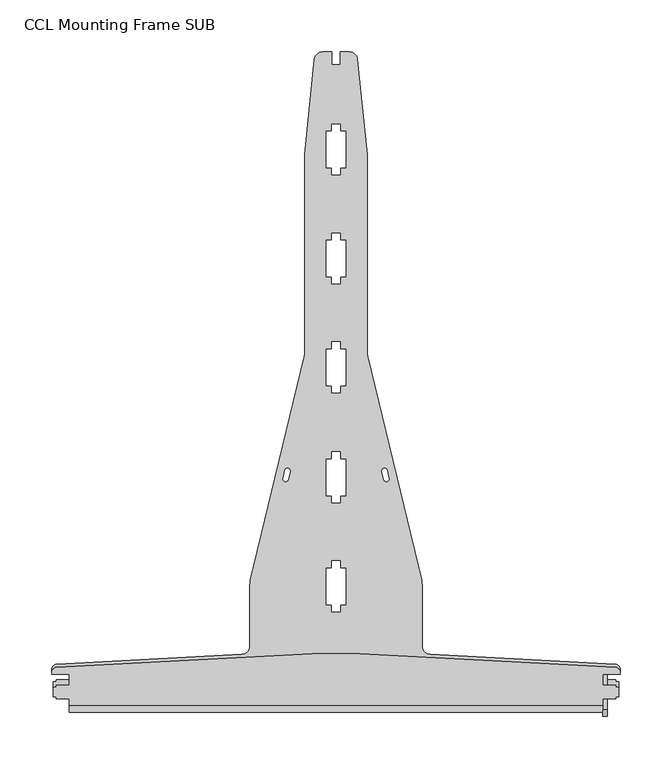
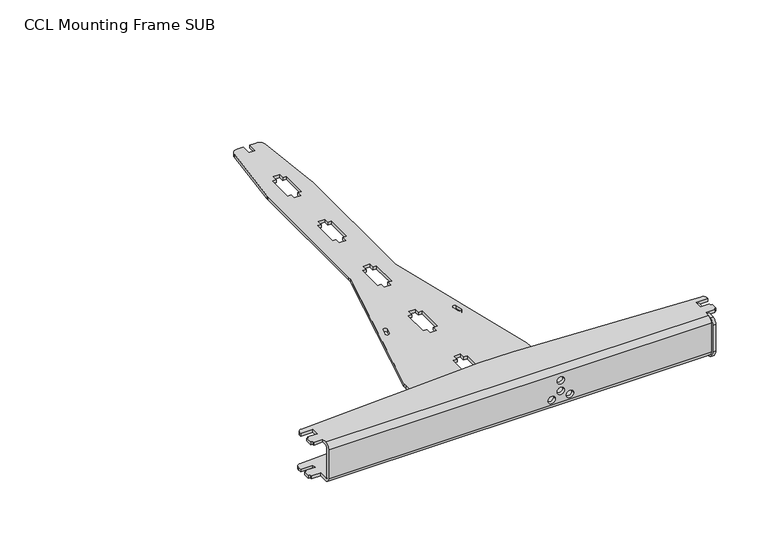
"""IFC4 building model written with IfcOpenShell, lengths in millimetres: proxy geometry, d&b CL-Series CCL Mounting Frame SUB : CCL Mounting Frame SUB."""

from ifc_helpers import new_model, si_unit, point, frame, frame_2d, origin, place, context, project, spatial, polyline, circle_curve, trimmed, segment, composite_curve, outline, extrude, source, transform, mapped, element, save
from ifc_brep_helpers import plane_surface, cylinder_surface, revolved_surface, advanced_brep


def ccl_mounting_frame_sub_df6a48cd(model_context):
    return source(origin(), model_context, "Body", "SolidModel", [
        advanced_brep(
        [(257.25, 10.5, 57.5), (257.25, 3.5, 50.5), (257.25, 3.5, 9.5), (257.25, 10.5, 2.5), (257.25, 22.0, 2.5), (257.25, 22.0, 6.5), (257.25, 10.5, 6.5), (257.25, 7.5, 9.5), (257.25, 7.5, 50.5), (257.25, 10.5, 53.5), (257.25, 16.75, 53.5), (257.25, 16.75, 57.5), (257.25, 35.0, 2.5), (257.25, 40.1, 2.5), (257.25, 40.1, 6.5), (257.25, 35.0, 6.5), (257.25, 29.75, 53.5), (257.25, 40.1, 53.5), (257.25, 40.1, 57.5), (257.25, 29.75, 57.5), (-257.25, 10.5, 53.5), (-257.25, 7.5, 50.5), (-257.25, 7.5, 9.5), (-257.25, 10.5, 6.5), (-257.25, 22.0, 6.5), (-257.25, 22.0, 2.5), (-257.25, 10.5, 2.5), (-257.25, 3.5, 9.5), (-257.25, 3.5, 50.5), (-257.25, 10.5, 57.5), (-257.25, 16.75, 57.5), (-257.25, 16.75, 53.5), (-257.25, 35.0, 6.5), (-257.25, 40.1, 6.5), (-257.25, 40.1, 2.5), (-257.25, 35.0, 2.5), (-257.25, 29.75, 57.5), (-257.25, 40.1, 57.5), (-257.25, 40.1, 53.5), (-257.25, 29.75, 53.5), (-269.75, 16.75, 53.5), (-269.75, 18.75, 53.5), (-272.25, 18.75, 53.5), (-272.25, 27.75, 53.5), (-269.75, 27.75, 53.5), (-269.75, 29.75, 53.5), (-273.75, 40.1, 53.5), (-273.75, 42.1, 53.5), (-269.0116798, 47.0931477, 53.5), (-22.7342663, 60.0, 53.5), (22.7342663, 60.0, 53.5), (269.0116798, 47.0931477, 53.5), (273.75, 42.1, 53.5), (273.75, 40.1, 53.5), (269.75, 29.75, 53.5), (269.75, 27.75, 53.5), (272.25, 27.75, 53.5), (272.25, 18.75, 53.5), (269.75, 18.75, 53.5), (269.75, 16.75, 53.5), (-22.7342663, 60.0, 57.5), (22.7342663, 60.0, 57.5), (269.75, 16.75, 57.5), (269.75, 18.75, 57.5), (272.25, 18.75, 57.5), (272.25, 27.75, 57.5), (269.75, 27.75, 57.5), (269.75, 29.75, 57.5), (273.75, 40.1, 57.5), (273.75, 42.1, 57.5), (269.0116798, 47.0931477, 57.5), (-269.0116798, 47.0931477, 57.5), (-273.75, 42.1, 57.5), (-273.75, 40.1, 57.5), (-269.75, 29.75, 57.5), (-269.75, 27.75, 57.5), (-272.25, 27.75, 57.5), (-272.25, 18.75, 57.5), (-269.75, 18.75, 57.5), (-269.75, 16.75, 57.5), (47.7127193, 3.5, 16.3525166), (37.7127193, 3.5, 16.3525166), (72.2872807, 3.5, 16.3525166), (62.2872807, 3.5, 16.3525166), (60.0, 3.5, 24.9561632), (50.0, 3.5, 24.9561632), (60.0, 3.5, 39.9561632), (50.0, 3.5, 39.9561632), (-269.75, 22.0, 2.5), (-269.75, 24.75, 2.5), (-272.25, 24.75, 2.5), (-272.25, 33.25, 2.5), (-269.75, 33.25, 2.5), (-269.75, 35.0, 2.5), (-273.75, 40.1, 2.5), (-273.75, 45.104117, 2.5), (-269.0116798, 50.0972647, 2.5), (-90.5813124, 59.448404, 2.5), (-83.0, 67.4374403, 2.5), (-83.0, 126.1248843, 2.5), (-82.4437276, 130.8090551, 2.5), (-30.5562724, 346.1909449, 2.5), (-30.0, 350.8751157, 2.5), (-30.0, 539.0024876, 2.5), (-29.9007438, 540.992562, 2.5), (-20.720397, 632.7960298, 2.5), (-12.7600995, 640.0, 2.5), (-4.25, 640.0, 2.5), (-4.25, 627.5, 2.5), (4.25, 627.5, 2.5), (4.25, 640.0, 2.5), (12.7600995, 640.0, 2.5), (20.720397, 632.7960298, 2.5), (29.9007438, 540.992562, 2.5), (30.0, 539.0024876, 2.5), (30.0, 350.8751157, 2.5), (30.5562724, 346.1909449, 2.5), (82.4437276, 130.8090551, 2.5), (83.0, 126.1248843, 2.5), (83.0, 67.4374403, 2.5), (90.5813124, 59.448404, 2.5), (269.0116798, 50.0972647, 2.5), (273.75, 45.104117, 2.5), (273.75, 40.1, 2.5), (269.75, 35.0, 2.5), (269.75, 33.25, 2.5), (272.25, 33.25, 2.5), (272.25, 24.75, 2.5), (269.75, 24.75, 2.5), (269.75, 22.0, 2.5), (-9.25, 563.5, 2.5), (-9.25, 528.5, 2.5), (-4.25, 528.5, 2.5), (-4.25, 521.5, 2.5), (4.25, 521.5, 2.5), (4.25, 528.5, 2.5), (9.25, 528.5, 2.5), (9.25, 563.5, 2.5), (4.25, 563.5, 2.5), (4.25, 570.5, 2.5), (-4.25, 570.5, 2.5), (-4.25, 563.5, 2.5), (-9.25, 458.5, 2.5), (-9.25, 423.5, 2.5), (-4.25, 423.5, 2.5), (-4.25, 416.5, 2.5), (4.25, 416.5, 2.5), (4.25, 423.5, 2.5), (9.25, 423.5, 2.5), (9.25, 458.5, 2.5), (4.25, 458.5, 2.5), (4.25, 465.5, 2.5), (-4.25, 465.5, 2.5), (-4.25, 458.5, 2.5), (-9.25, 353.5, 2.5), (-9.25, 318.5, 2.5), (-4.25, 318.5, 2.5), (-4.25, 311.5, 2.5), (4.25, 311.5, 2.5), (4.25, 318.5, 2.5), (9.25, 318.5, 2.5), (9.25, 353.5, 2.5), (4.25, 353.5, 2.5), (4.25, 360.5, 2.5), (-4.25, 360.5, 2.5), (-4.25, 353.5, 2.5), (-9.25, 247.5, 2.5), (-9.25, 212.5, 2.5), (-4.25, 212.5, 2.5), (-4.25, 205.5, 2.5), (4.25, 205.5, 2.5), (4.25, 212.5, 2.5), (9.25, 212.5, 2.5), (9.25, 247.5, 2.5), (4.25, 247.5, 2.5), (4.25, 254.5, 2.5), (-4.25, 254.5, 2.5), (-4.25, 247.5, 2.5), (-9.25, 142.5, 2.5), (-9.25, 107.5, 2.5), (-4.25, 107.5, 2.5), (-4.25, 100.5, 2.5), (4.25, 100.5, 2.5), (4.25, 107.5, 2.5), (9.25, 107.5, 2.5), (9.25, 142.5, 2.5), (4.25, 142.5, 2.5), (4.25, 149.5, 2.5), (-4.25, 149.5, 2.5), (-4.25, 142.5, 2.5), (-49.1797951, 236.8630124, 2.5), (-51.0534634, 229.0855213, 2.5), (-46.1925315, 227.9144787, 2.5), (-44.3188632, 235.6919697, 2.5), (49.1797951, 236.8630124, 2.5), (44.3188632, 235.6919697, 2.5), (46.1925315, 227.9144787, 2.5), (51.0534634, 229.0855213, 2.5), (269.75, 22.0, 6.5), (269.75, 24.75, 6.5), (272.25, 24.75, 6.5), (272.25, 33.25, 6.5), (269.75, 33.25, 6.5), (269.75, 35.0, 6.5), (273.75, 40.1, 6.5), (273.75, 45.104117, 6.5), (269.0116798, 50.0972647, 6.5), (90.5813124, 59.448404, 6.5), (83.0, 67.4374403, 6.5), (83.0, 126.1248843, 6.5), (82.4437276, 130.8090551, 6.5), (30.5562724, 346.1909449, 6.5), (30.0, 350.8751157, 6.5), (30.0, 539.0024876, 6.5), (29.9007438, 540.992562, 6.5), (20.720397, 632.7960298, 6.5), (12.7600995, 640.0, 6.5), (4.25, 640.0, 6.5), (4.25, 627.5, 6.5), (-4.25, 627.5, 6.5), (-4.25, 640.0, 6.5), (-12.7600995, 640.0, 6.5), (-20.720397, 632.7960298, 6.5), (-29.9007438, 540.992562, 6.5), (-30.0, 539.0024876, 6.5), (-30.0, 350.8751157, 6.5), (-30.5562724, 346.1909449, 6.5), (-82.4437276, 130.8090551, 6.5), (-83.0, 126.1248843, 6.5), (-83.0, 67.4374403, 6.5), (-90.5813124, 59.448404, 6.5), (-269.0116798, 50.0972647, 6.5), (-273.75, 45.104117, 6.5), (-273.75, 40.1, 6.5), (-269.75, 35.0, 6.5), (-269.75, 33.25, 6.5), (-272.25, 33.25, 6.5), (-272.25, 24.75, 6.5), (-269.75, 24.75, 6.5), (-269.75, 22.0, 6.5), (-9.25, 563.5, 6.5), (-4.25, 563.5, 6.5), (-4.25, 570.5, 6.5), (4.25, 570.5, 6.5), (4.25, 563.5, 6.5), (9.25, 563.5, 6.5), (9.25, 528.5, 6.5), (4.25, 528.5, 6.5), (4.25, 521.5, 6.5), (-4.25, 521.5, 6.5), (-4.25, 528.5, 6.5), (-9.25, 528.5, 6.5), (-9.25, 458.5, 6.5), (-4.25, 458.5, 6.5), (-4.25, 465.5, 6.5), (4.25, 465.5, 6.5), (4.25, 458.5, 6.5), (9.25, 458.5, 6.5), (9.25, 423.5, 6.5), (4.25, 423.5, 6.5), (4.25, 416.5, 6.5), (-4.25, 416.5, 6.5), (-4.25, 423.5, 6.5), (-9.25, 423.5, 6.5), (-9.25, 353.5, 6.5), (-4.25, 353.5, 6.5), (-4.25, 360.5, 6.5), (4.25, 360.5, 6.5), (4.25, 353.5, 6.5), (9.25, 353.5, 6.5), (9.25, 318.5, 6.5), (4.25, 318.5, 6.5), (4.25, 311.5, 6.5), (-4.25, 311.5, 6.5), (-4.25, 318.5, 6.5), (-9.25, 318.5, 6.5), (-9.25, 247.5, 6.5), (-4.25, 247.5, 6.5), (-4.25, 254.5, 6.5), (4.25, 254.5, 6.5), (4.25, 247.5, 6.5), (9.25, 247.5, 6.5), (9.25, 212.5, 6.5), (4.25, 212.5, 6.5), (4.25, 205.5, 6.5), (-4.25, 205.5, 6.5), (-4.25, 212.5, 6.5), (-9.25, 212.5, 6.5), (-9.25, 142.5, 6.5), (-4.25, 142.5, 6.5), (-4.25, 149.5, 6.5), (4.25, 149.5, 6.5), (4.25, 142.5, 6.5), (9.25, 142.5, 6.5), (9.25, 107.5, 6.5), (4.25, 107.5, 6.5), (4.25, 100.5, 6.5), (-4.25, 100.5, 6.5), (-4.25, 107.5, 6.5), (-9.25, 107.5, 6.5), (-49.1797951, 236.8630124, 6.5), (-44.3188632, 235.6919697, 6.5), (-46.1925315, 227.9144787, 6.5), (-51.0534634, 229.0855213, 6.5), (49.1797951, 236.8630124, 6.5), (51.0534634, 229.0855213, 6.5), (46.1925315, 227.9144787, 6.5), (44.3188632, 235.6919697, 6.5), (37.7127193, 7.5, 16.3525166), (47.7127193, 7.5, 16.3525166), (62.2872807, 7.5, 16.3525166), (72.2872807, 7.5, 16.3525166), (50.0, 7.5, 24.9561632), (60.0, 7.5, 24.9561632), (50.0, 7.5, 39.9561632), (60.0, 7.5, 39.9561632)],
        [
            (0, 1, circle_curve(frame((257.25, 10.5, 50.5), z_axis=(1.0, 0.0, 0.0), x_axis=(0.0, 1.0, 0.0)), 7.0)),
            (1, 2),
            (2, 3, circle_curve(frame((257.25, 10.5, 9.5), z_axis=(1.0, 0.0, 0.0), x_axis=(0.0, 1.0, 0.0)), 7.0)),
            (3, 4),
            (4, 5),
            (5, 6),
            (6, 7, circle_curve(frame((257.25, 10.5, 9.5), z_axis=(-1.0, 0.0, 0.0), x_axis=(0.0, 1.0, 0.0)), 3.0)),
            (7, 8),
            (8, 9, circle_curve(frame((257.25, 10.5, 50.5), z_axis=(-1.0, 0.0, 0.0), x_axis=(0.0, 1.0, 0.0)), 3.0)),
            (9, 10),
            (10, 11),
            (11, 0),
            (12, 13),
            (13, 14),
            (14, 15),
            (15, 12),
            (16, 17),
            (17, 18),
            (18, 19),
            (19, 16),
            (20, 21, circle_curve(frame((-257.25, 10.5, 50.5), z_axis=(1.0, 0.0, 0.0), x_axis=(0.0, 1.0, 0.0)), 3.0)),
            (21, 22),
            (22, 23, circle_curve(frame((-257.25, 10.5, 9.5), z_axis=(1.0, 0.0, 0.0), x_axis=(0.0, 1.0, 0.0)), 3.0)),
            (23, 24),
            (24, 25),
            (25, 26),
            (26, 27, circle_curve(frame((-257.25, 10.5, 9.5), z_axis=(-1.0, 0.0, 0.0), x_axis=(0.0, 1.0, 0.0)), 7.0)),
            (27, 28),
            (28, 29, circle_curve(frame((-257.25, 10.5, 50.5), z_axis=(-1.0, 0.0, 0.0), x_axis=(0.0, 1.0, 0.0)), 7.0)),
            (29, 30),
            (30, 31),
            (31, 20),
            (32, 33),
            (33, 34),
            (34, 35),
            (35, 32),
            (36, 37),
            (37, 38),
            (38, 39),
            (39, 36),
            (9, 20),
            (31, 40),
            (40, 41),
            (41, 42),
            (42, 43),
            (43, 44),
            (44, 45),
            (45, 39),
            (38, 46),
            (46, 47),
            (47, 48, circle_curve(frame((-268.75, 42.1, 53.5), z_axis=(0.0, 0.0, -1.0), x_axis=(1.0, 0.0, 0.0)), 5.0)),
            (48, 49),
            (49, 50),
            (50, 51),
            (51, 52, circle_curve(frame((268.75, 42.1, 53.5), z_axis=(0.0, 0.0, -1.0), x_axis=(1.0, 0.0, 0.0)), 5.0)),
            (52, 53),
            (53, 17),
            (16, 54),
            (54, 55),
            (55, 56),
            (56, 57),
            (57, 58),
            (58, 59),
            (59, 10),
            (49, 60),
            (60, 61),
            (61, 50),
            (29, 0),
            (11, 62),
            (62, 63),
            (63, 64),
            (64, 65),
            (65, 66),
            (66, 67),
            (67, 19),
            (18, 68),
            (68, 69),
            (69, 70, circle_curve(frame((268.75, 42.1, 57.5), z_axis=(0.0, 0.0, 1.0), x_axis=(1.0, 0.0, 0.0)), 5.0)),
            (70, 61),
            (60, 71),
            (71, 72, circle_curve(frame((-268.75, 42.1, 57.5), z_axis=(0.0, 0.0, 1.0), x_axis=(1.0, 0.0, 0.0)), 5.0)),
            (72, 73),
            (73, 37),
            (36, 74),
            (74, 75),
            (75, 76),
            (76, 77),
            (77, 78),
            (78, 79),
            (79, 30),
            (28, 1),
            (27, 2),
            (80, 81, circle_curve(frame((42.7127193, 3.5, 16.3525166), z_axis=(0.0, 1.0, 0.0), x_axis=(1.0, 0.0, 0.0)), 5.0)),
            (81, 80, circle_curve(frame((42.7127193, 3.5, 16.3525166), z_axis=(0.0, 1.0, 0.0), x_axis=(1.0, 0.0, 0.0)), 5.0)),
            (82, 83, circle_curve(frame((67.2872807, 3.5, 16.3525166), z_axis=(0.0, 1.0, 0.0), x_axis=(1.0, 0.0, 0.0)), 5.0)),
            (83, 82, circle_curve(frame((67.2872807, 3.5, 16.3525166), z_axis=(0.0, 1.0, 0.0), x_axis=(1.0, 0.0, 0.0)), 5.0)),
            (84, 85, circle_curve(frame((55.0, 3.5, 24.9561632), z_axis=(0.0, 1.0, 0.0), x_axis=(1.0, 0.0, 0.0)), 5.0)),
            (85, 84, circle_curve(frame((55.0, 3.5, 24.9561632), z_axis=(0.0, 1.0, 0.0), x_axis=(1.0, 0.0, 0.0)), 5.0)),
            (86, 87, circle_curve(frame((55.0, 3.5, 39.9561632), z_axis=(0.0, 1.0, 0.0), x_axis=(1.0, 0.0, 0.0)), 5.0)),
            (87, 86, circle_curve(frame((55.0, 3.5, 39.9561632), z_axis=(0.0, 1.0, 0.0), x_axis=(1.0, 0.0, 0.0)), 5.0)),
            (26, 3),
            (25, 88),
            (88, 89),
            (89, 90),
            (90, 91),
            (91, 92),
            (92, 93),
            (93, 35),
            (34, 94),
            (94, 95),
            (95, 96, circle_curve(frame((-268.75, 45.104117, 2.5), z_axis=(0.0, 0.0, -1.0), x_axis=(1.0, 0.0, 0.0)), 5.0)),
            (96, 97),
            (97, 98, circle_curve(frame((-91.0, 67.4374403, 2.5), z_axis=(0.0, 0.0, 1.0), x_axis=(-1.0, 0.0, 0.0)), 8.0)),
            (98, 99),
            (99, 100, circle_curve(frame((-63.0, 126.1248843, 2.5), z_axis=(0.0, 0.0, -1.0), x_axis=(-1.0, 0.0, 0.0)), 20.0)),
            (100, 101),
            (101, 102, circle_curve(frame((-50.0, 350.8751157, 2.5), z_axis=(0.0, 0.0, 1.0), x_axis=(-1.0, 0.0, 0.0)), 20.0)),
            (102, 103),
            (103, 104, circle_curve(frame((-10.0, 539.0024876, 2.5), z_axis=(0.0, 0.0, -1.0), x_axis=(-1.0, 0.0, 0.0)), 20.0)),
            (104, 105),
            (105, 106, circle_curve(frame((-12.7600995, 632.0, 2.5), z_axis=(0.0, 0.0, -1.0), x_axis=(-1.0, 0.0, 0.0)), 8.0)),
            (106, 107),
            (107, 108),
            (108, 109),
            (109, 110),
            (110, 111),
            (111, 112, circle_curve(frame((12.7600995, 632.0, 2.5), z_axis=(0.0, 0.0, -1.0), x_axis=(-1.0, 0.0, 0.0)), 8.0)),
            (112, 113),
            (113, 114, circle_curve(frame((10.0, 539.0024876, 2.5), z_axis=(0.0, 0.0, -1.0), x_axis=(-1.0, 0.0, 0.0)), 20.0)),
            (114, 115),
            (115, 116, circle_curve(frame((50.0, 350.8751157, 2.5), z_axis=(0.0, 0.0, 1.0), x_axis=(-1.0, 0.0, 0.0)), 20.0)),
            (116, 117),
            (117, 118, circle_curve(frame((63.0, 126.1248843, 2.5), z_axis=(0.0, 0.0, -1.0), x_axis=(-1.0, 0.0, 0.0)), 20.0)),
            (118, 119),
            (119, 120, circle_curve(frame((91.0, 67.4374403, 2.5), z_axis=(0.0, 0.0, 1.0), x_axis=(-1.0, 0.0, 0.0)), 8.0)),
            (120, 121),
            (121, 122, circle_curve(frame((268.75, 45.104117, 2.5), z_axis=(0.0, 0.0, -1.0), x_axis=(1.0, 0.0, 0.0)), 5.0)),
            (122, 123),
            (123, 13),
            (12, 124),
            (124, 125),
            (125, 126),
            (126, 127),
            (127, 128),
            (128, 129),
            (129, 4),
            (130, 131),
            (131, 132),
            (132, 133),
            (133, 134),
            (134, 135),
            (135, 136),
            (136, 137),
            (137, 138),
            (138, 139),
            (139, 140),
            (140, 141),
            (141, 130),
            (142, 143),
            (143, 144),
            (144, 145),
            (145, 146),
            (146, 147),
            (147, 148),
            (148, 149),
            (149, 150),
            (150, 151),
            (151, 152),
            (152, 153),
            (153, 142),
            (154, 155),
            (155, 156),
            (156, 157),
            (157, 158),
            (158, 159),
            (159, 160),
            (160, 161),
            (161, 162),
            (162, 163),
            (163, 164),
            (164, 165),
            (165, 154),
            (166, 167),
            (167, 168),
            (168, 169),
            (169, 170),
            (170, 171),
            (171, 172),
            (172, 173),
            (173, 174),
            (174, 175),
            (175, 176),
            (176, 177),
            (177, 166),
            (178, 179),
            (179, 180),
            (180, 181),
            (181, 182),
            (182, 183),
            (183, 184),
            (184, 185),
            (185, 186),
            (186, 187),
            (187, 188),
            (188, 189),
            (189, 178),
            (190, 191),
            (191, 192, circle_curve(frame((-48.6229974, 228.5, 2.5), z_axis=(0.0, 0.0, 1.0), x_axis=(-1.0, 0.0, 0.0)), 2.5)),
            (192, 193),
            (193, 190, circle_curve(frame((-46.7493291, 236.2774911, 2.5), z_axis=(0.0, 0.0, 1.0), x_axis=(-1.0, 0.0, 0.0)), 2.5)),
            (194, 195, circle_curve(frame((46.7493291, 236.2774911, 2.5), z_axis=(0.0, 0.0, 1.0), x_axis=(-1.0, 0.0, 0.0)), 2.5)),
            (195, 196),
            (196, 197, circle_curve(frame((48.6229974, 228.5, 2.5), z_axis=(0.0, 0.0, 1.0), x_axis=(-1.0, 0.0, 0.0)), 2.5)),
            (197, 194),
            (23, 6),
            (5, 198),
            (198, 199),
            (199, 200),
            (200, 201),
            (201, 202),
            (202, 203),
            (203, 15),
            (14, 204),
            (204, 205),
            (205, 206, circle_curve(frame((268.75, 45.104117, 6.5), z_axis=(0.0, 0.0, 1.0), x_axis=(1.0, 0.0, 0.0)), 5.0)),
            (206, 207),
            (207, 208, circle_curve(frame((91.0, 67.4374403, 6.5), z_axis=(0.0, 0.0, -1.0), x_axis=(-1.0, 0.0, 0.0)), 8.0)),
            (208, 209),
            (209, 210, circle_curve(frame((63.0, 126.1248843, 6.5), z_axis=(0.0, 0.0, 1.0), x_axis=(-1.0, 0.0, 0.0)), 20.0)),
            (210, 211),
            (211, 212, circle_curve(frame((50.0, 350.8751157, 6.5), z_axis=(0.0, 0.0, -1.0), x_axis=(-1.0, 0.0, 0.0)), 20.0)),
            (212, 213),
            (213, 214, circle_curve(frame((10.0, 539.0024876, 6.5), z_axis=(0.0, 0.0, 1.0), x_axis=(-1.0, 0.0, 0.0)), 20.0)),
            (214, 215),
            (215, 216, circle_curve(frame((12.7600995, 632.0, 6.5), z_axis=(0.0, 0.0, 1.0), x_axis=(-1.0, 0.0, 0.0)), 8.0)),
            (216, 217),
            (217, 218),
            (218, 219),
            (219, 220),
            (220, 221),
            (221, 222, circle_curve(frame((-12.7600995, 632.0, 6.5), z_axis=(0.0, 0.0, 1.0), x_axis=(-1.0, 0.0, 0.0)), 8.0)),
            (222, 223),
            (223, 224, circle_curve(frame((-10.0, 539.0024876, 6.5), z_axis=(0.0, 0.0, 1.0), x_axis=(-1.0, 0.0, 0.0)), 20.0)),
            (224, 225),
            (225, 226, circle_curve(frame((-50.0, 350.8751157, 6.5), z_axis=(0.0, 0.0, -1.0), x_axis=(-1.0, 0.0, 0.0)), 20.0)),
            (226, 227),
            (227, 228, circle_curve(frame((-63.0, 126.1248843, 6.5), z_axis=(0.0, 0.0, 1.0), x_axis=(-1.0, 0.0, 0.0)), 20.0)),
            (228, 229),
            (229, 230, circle_curve(frame((-91.0, 67.4374403, 6.5), z_axis=(0.0, 0.0, -1.0), x_axis=(-1.0, 0.0, 0.0)), 8.0)),
            (230, 231),
            (231, 232, circle_curve(frame((-268.75, 45.104117, 6.5), z_axis=(0.0, 0.0, 1.0), x_axis=(1.0, 0.0, 0.0)), 5.0)),
            (232, 233),
            (233, 33),
            (32, 234),
            (234, 235),
            (235, 236),
            (236, 237),
            (237, 238),
            (238, 239),
            (239, 24),
            (240, 241),
            (241, 242),
            (242, 243),
            (243, 244),
            (244, 245),
            (245, 246),
            (246, 247),
            (247, 248),
            (248, 249),
            (249, 250),
            (250, 251),
            (251, 240),
            (252, 253),
            (253, 254),
            (254, 255),
            (255, 256),
            (256, 257),
            (257, 258),
            (258, 259),
            (259, 260),
            (260, 261),
            (261, 262),
            (262, 263),
            (263, 252),
            (264, 265),
            (265, 266),
            (266, 267),
            (267, 268),
            (268, 269),
            (269, 270),
            (270, 271),
            (271, 272),
            (272, 273),
            (273, 274),
            (274, 275),
            (275, 264),
            (276, 277),
            (277, 278),
            (278, 279),
            (279, 280),
            (280, 281),
            (281, 282),
            (282, 283),
            (283, 284),
            (284, 285),
            (285, 286),
            (286, 287),
            (287, 276),
            (288, 289),
            (289, 290),
            (290, 291),
            (291, 292),
            (292, 293),
            (293, 294),
            (294, 295),
            (295, 296),
            (296, 297),
            (297, 298),
            (298, 299),
            (299, 288),
            (300, 301, circle_curve(frame((-46.7493291, 236.2774911, 6.5), z_axis=(0.0, 0.0, -1.0), x_axis=(-1.0, 0.0, 0.0)), 2.5)),
            (301, 302),
            (302, 303, circle_curve(frame((-48.6229974, 228.5, 6.5), z_axis=(0.0, 0.0, -1.0), x_axis=(-1.0, 0.0, 0.0)), 2.5)),
            (303, 300),
            (304, 305),
            (305, 306, circle_curve(frame((48.6229974, 228.5, 6.5), z_axis=(0.0, 0.0, -1.0), x_axis=(-1.0, 0.0, 0.0)), 2.5)),
            (306, 307),
            (307, 304, circle_curve(frame((46.7493291, 236.2774911, 6.5), z_axis=(0.0, 0.0, -1.0), x_axis=(-1.0, 0.0, 0.0)), 2.5)),
            (22, 7),
            (21, 8),
            (308, 309, circle_curve(frame((42.7127193, 7.5, 16.3525166), z_axis=(0.0, -1.0, 0.0), x_axis=(1.0, 0.0, 0.0)), 5.0)),
            (309, 308, circle_curve(frame((42.7127193, 7.5, 16.3525166), z_axis=(0.0, -1.0, 0.0), x_axis=(1.0, 0.0, 0.0)), 5.0)),
            (310, 311, circle_curve(frame((67.2872807, 7.5, 16.3525166), z_axis=(0.0, -1.0, 0.0), x_axis=(1.0, 0.0, 0.0)), 5.0)),
            (311, 310, circle_curve(frame((67.2872807, 7.5, 16.3525166), z_axis=(0.0, -1.0, 0.0), x_axis=(1.0, 0.0, 0.0)), 5.0)),
            (312, 313, circle_curve(frame((55.0, 7.5, 24.9561632), z_axis=(0.0, -1.0, 0.0), x_axis=(1.0, 0.0, 0.0)), 5.0)),
            (313, 312, circle_curve(frame((55.0, 7.5, 24.9561632), z_axis=(0.0, -1.0, 0.0), x_axis=(1.0, 0.0, 0.0)), 5.0)),
            (314, 315, circle_curve(frame((55.0, 7.5, 39.9561632), z_axis=(0.0, -1.0, 0.0), x_axis=(1.0, 0.0, 0.0)), 5.0)),
            (315, 314, circle_curve(frame((55.0, 7.5, 39.9561632), z_axis=(0.0, -1.0, 0.0), x_axis=(1.0, 0.0, 0.0)), 5.0)),
            (48, 71),
            (70, 51),
            (120, 207),
            (206, 121),
            (230, 97),
            (96, 231),
            (221, 106),
            (105, 222),
            (104, 223),
            (103, 224),
            (102, 225),
            (101, 226),
            (100, 227),
            (99, 228),
            (98, 229),
            (119, 208),
            (118, 209),
            (117, 210),
            (116, 211),
            (115, 212),
            (114, 213),
            (113, 214),
            (112, 215),
            (111, 216),
            (110, 217),
            (109, 218),
            (108, 219),
            (107, 220),
            (240, 130),
            (141, 241),
            (140, 242),
            (139, 243),
            (138, 244),
            (137, 245),
            (136, 246),
            (135, 247),
            (134, 248),
            (133, 249),
            (132, 250),
            (131, 251),
            (252, 142),
            (153, 253),
            (152, 254),
            (151, 255),
            (150, 256),
            (149, 257),
            (148, 258),
            (147, 259),
            (146, 260),
            (145, 261),
            (144, 262),
            (143, 263),
            (264, 154),
            (165, 265),
            (164, 266),
            (163, 267),
            (162, 268),
            (161, 269),
            (160, 270),
            (159, 271),
            (158, 272),
            (157, 273),
            (156, 274),
            (155, 275),
            (276, 166),
            (177, 277),
            (176, 278),
            (175, 279),
            (174, 280),
            (173, 281),
            (172, 282),
            (171, 283),
            (170, 284),
            (169, 285),
            (168, 286),
            (167, 287),
            (288, 178),
            (189, 289),
            (188, 290),
            (187, 291),
            (186, 292),
            (185, 293),
            (184, 294),
            (183, 295),
            (182, 296),
            (181, 297),
            (180, 298),
            (179, 299),
            (300, 190),
            (193, 301),
            (192, 302),
            (191, 303),
            (304, 194),
            (197, 305),
            (196, 306),
            (195, 307),
            (123, 204),
            (122, 205),
            (203, 124),
            (129, 198),
            (128, 199),
            (127, 200),
            (126, 201),
            (125, 202),
            (72, 47),
            (46, 73),
            (74, 45),
            (44, 75),
            (43, 76),
            (42, 77),
            (41, 78),
            (40, 79),
            (67, 54),
            (59, 62),
            (58, 63),
            (57, 64),
            (56, 65),
            (55, 66),
            (53, 68),
            (52, 69),
            (95, 232),
            (94, 233),
            (234, 93),
            (92, 235),
            (91, 236),
            (90, 237),
            (89, 238),
            (88, 239),
            (308, 81),
            (80, 309),
            (310, 83),
            (82, 311),
            (312, 85),
            (84, 313),
            (314, 87),
            (86, 315),
        ],
        [
            plane_surface(frame((257.25, 12.5730092, 53.5), z_axis=(1.0, 0.0, 0.0), x_axis=(0.0, 1.0, 0.0))),
            plane_surface(frame((-257.25, 12.5730092, 53.5), z_axis=(-1.0, 0.0, 0.0), x_axis=(0.0, -1.0, 0.0))),
            plane_surface(frame((257.25, 10.5, 53.5), z_axis=(0.0, 0.0, -1.0), x_axis=(-1.0, 0.0, 0.0))),
            plane_surface(frame((257.25, 60.0, 53.5), z_axis=(0.0, 1.0, 0.0), x_axis=(-1.0, 0.0, 0.0))),
            plane_surface(frame((257.25, 60.0, 57.5), z_axis=(0.0, 0.0, 1.0), x_axis=(-1.0, 0.0, 0.0))),
            cylinder_surface(frame((-257.25, 10.5, 50.5), z_axis=(1.0, 0.0, 0.0), x_axis=(0.0, 1.0, 0.0)), 7.0),
            plane_surface(frame((257.25, 3.5, 50.5), z_axis=(0.0, -1.0, 0.0), x_axis=(-1.0, 0.0, 0.0))),
            cylinder_surface(frame((-257.25, 10.5, 9.5), z_axis=(1.0, 0.0, 0.0), x_axis=(0.0, 1.0, 0.0)), 7.0),
            plane_surface(frame((257.25, 10.5, 2.5), z_axis=(0.0, 0.0, -1.0), x_axis=(-1.0, 0.0, 0.0))),
            plane_surface(frame((257.25, 60.0, 6.5), z_axis=(0.0, 0.0, 1.0), x_axis=(-1.0, 0.0, 0.0))),
            revolved_surface(polyline([(-257.25, 13.5, 9.5), (257.25, 13.5, 9.5)]), (-257.25, 10.5, 9.5), (-1.0, 0.0, 0.0)),
            plane_surface(frame((257.25, 7.5, 9.5), z_axis=(0.0, 1.0, 0.0), x_axis=(-1.0, 0.0, 0.0))),
            revolved_surface(polyline([(-257.25, 13.5, 50.5), (257.25, 13.5, 50.5)]), (-257.25, 10.5, 50.5), (-1.0, 0.0, 0.0)),
            plane_surface(frame((-273.75, 46.8448228, 69.3533132), z_axis=(-0.05233595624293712, 0.9986295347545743, 0.0), x_axis=(0.0, 0.0, -1.0))),
            plane_surface(frame((22.7342663, 60.0, 69.3533132), z_axis=(0.05233595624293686, 0.9986295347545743, 0.0), x_axis=(0.0, 0.0, -1.0))),
            plane_surface(frame((90.5813124, 59.448404, 20.0), z_axis=(0.052335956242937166, 0.9986295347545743, 0.0), x_axis=(0.0, 0.0, -1.0))),
            plane_surface(frame((-269.0116798, 50.0972647, 20.0), z_axis=(-0.05233595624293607, 0.9986295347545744, 0.0), x_axis=(0.0, 0.0, -1.0))),
            cylinder_surface(frame((-12.7600995, 632.0, 2.5), z_axis=(0.0, 0.0, 1.0), x_axis=(-1.0, 0.0, 0.0)), 8.0),
            plane_surface(frame((-20.720397, 632.7960298, 6.5), z_axis=(-0.995037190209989, 0.09950371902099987, 0.0), x_axis=(0.0, 0.0, -1.0))),
            cylinder_surface(frame((-10.0, 539.0024876, 2.5), z_axis=(0.0, 0.0, 1.0), x_axis=(-1.0, 0.0, 0.0)), 20.0),
            plane_surface(frame((-30.0, 539.0024876, 6.5), z_axis=(-1.0, 0.0, 0.0), x_axis=(0.0, 0.0, -1.0))),
            revolved_surface(polyline([(-70.0, 350.8751157, 2.5), (-70.0, 350.8751157, 6.5)]), (-50.0, 350.8751157, 2.5), (0.0, 0.0, -1.0)),
            plane_surface(frame((-30.5562724, 346.1909449, 6.5), z_axis=(-0.9721863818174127, 0.23420853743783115, 0.0), x_axis=(0.0, 0.0, -1.0))),
            cylinder_surface(frame((-63.0, 126.1248843, 2.5), z_axis=(0.0, 0.0, 1.0), x_axis=(-1.0, 0.0, 0.0)), 20.0),
            plane_surface(frame((-83.0, 126.1248843, 6.5), z_axis=(-1.0, 0.0, 0.0), x_axis=(0.0, 0.0, -1.0))),
            revolved_surface(polyline([(-99.0, 67.4374403, 2.5), (-99.0, 67.4374403, 6.5)]), (-91.0, 67.4374403, 2.5), (0.0, 0.0, -1.0)),
            revolved_surface(polyline([(83.0, 67.4374403, 2.5), (83.0, 67.4374403, 6.5)]), (91.0, 67.4374403, 2.5), (0.0, 0.0, -1.0)),
            plane_surface(frame((83.0, 67.4374403, 6.5), z_axis=(1.0, 0.0, 0.0), x_axis=(0.0, 0.0, -1.0))),
            cylinder_surface(frame((63.0, 126.1248843, 2.5), z_axis=(0.0, 0.0, 1.0), x_axis=(-1.0, 0.0, 0.0)), 20.0),
            plane_surface(frame((82.4437276, 130.8090551, 6.5), z_axis=(0.9721863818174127, 0.23420853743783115, 0.0), x_axis=(0.0, 0.0, -1.0))),
            revolved_surface(polyline([(30.0, 350.8751157, 2.5), (30.0, 350.8751157, 6.5)]), (50.0, 350.8751157, 2.5), (0.0, 0.0, -1.0)),
            plane_surface(frame((30.0, 350.8751157, 6.5), z_axis=(1.0, 0.0, 0.0), x_axis=(0.0, 0.0, -1.0))),
            cylinder_surface(frame((10.0, 539.0024876, 2.5), z_axis=(0.0, 0.0, 1.0), x_axis=(-1.0, 0.0, 0.0)), 20.0),
            plane_surface(frame((29.9007438, 540.992562, 6.5), z_axis=(0.9950371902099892, 0.09950371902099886, 0.0), x_axis=(0.0, 0.0, -1.0))),
            cylinder_surface(frame((12.7600995, 632.0, 2.5), z_axis=(0.0, 0.0, 1.0), x_axis=(-1.0, 0.0, 0.0)), 8.0),
            plane_surface(frame((12.7600995, 640.0, 6.5), z_axis=(0.0, 1.0, 0.0), x_axis=(0.0, 0.0, -1.0))),
            plane_surface(frame((4.25, 640.0, 6.5), z_axis=(-1.0, 0.0, 0.0), x_axis=(0.0, 0.0, -1.0))),
            plane_surface(frame((4.25, 627.5, 6.5), z_axis=(0.0, 1.0, 0.0), x_axis=(0.0, 0.0, -1.0))),
            plane_surface(frame((-4.25, 627.5, 6.5), z_axis=(1.0, 0.0, 0.0), x_axis=(0.0, 0.0, -1.0))),
            plane_surface(frame((-4.25, 640.0, 6.5), z_axis=(0.0, 1.0, 0.0), x_axis=(0.0, 0.0, -1.0))),
            plane_surface(frame((-9.25, 563.5, 6.5), z_axis=(0.0, -1.0, 0.0), x_axis=(0.0, 0.0, -1.0))),
            plane_surface(frame((-4.25, 563.5, 6.5), z_axis=(1.0, 0.0, 0.0), x_axis=(0.0, 0.0, -1.0))),
            plane_surface(frame((-4.25, 570.5, 6.5), z_axis=(0.0, -1.0, 0.0), x_axis=(0.0, 0.0, -1.0))),
            plane_surface(frame((4.25, 570.5, 6.5), z_axis=(-1.0, 0.0, 0.0), x_axis=(0.0, 0.0, -1.0))),
            plane_surface(frame((4.25, 563.5, 6.5), z_axis=(0.0, -1.0, 0.0), x_axis=(0.0, 0.0, -1.0))),
            plane_surface(frame((9.25, 563.5, 6.5), z_axis=(-1.0, 0.0, 0.0), x_axis=(0.0, 0.0, -1.0))),
            plane_surface(frame((9.25, 528.5, 6.5), z_axis=(0.0, 1.0, 0.0), x_axis=(0.0, 0.0, -1.0))),
            plane_surface(frame((4.25, 528.5, 6.5), z_axis=(-1.0, 0.0, 0.0), x_axis=(0.0, 0.0, -1.0))),
            plane_surface(frame((4.25, 521.5, 6.5), z_axis=(0.0, 1.0, 0.0), x_axis=(0.0, 0.0, -1.0))),
            plane_surface(frame((-4.25, 521.5, 6.5), z_axis=(1.0, 0.0, 0.0), x_axis=(0.0, 0.0, -1.0))),
            plane_surface(frame((-4.25, 528.5, 6.5), z_axis=(0.0, 1.0, 0.0), x_axis=(0.0, 0.0, -1.0))),
            plane_surface(frame((-9.25, 528.5, 6.5), z_axis=(1.0, 0.0, 0.0), x_axis=(0.0, 0.0, -1.0))),
            plane_surface(frame((-9.25, 458.5, 6.5), z_axis=(0.0, -1.0, 0.0), x_axis=(0.0, 0.0, -1.0))),
            plane_surface(frame((-4.25, 458.5, 6.5), z_axis=(1.0, 0.0, 0.0), x_axis=(0.0, 0.0, -1.0))),
            plane_surface(frame((-4.25, 465.5, 6.5), z_axis=(0.0, -1.0, 0.0), x_axis=(0.0, 0.0, -1.0))),
            plane_surface(frame((4.25, 465.5, 6.5), z_axis=(-1.0, 0.0, 0.0), x_axis=(0.0, 0.0, -1.0))),
            plane_surface(frame((4.25, 458.5, 6.5), z_axis=(0.0, -1.0, 0.0), x_axis=(0.0, 0.0, -1.0))),
            plane_surface(frame((9.25, 458.5, 6.5), z_axis=(-1.0, 0.0, 0.0), x_axis=(0.0, 0.0, -1.0))),
            plane_surface(frame((9.25, 423.5, 6.5), z_axis=(0.0, 1.0, 0.0), x_axis=(0.0, 0.0, -1.0))),
            plane_surface(frame((4.25, 423.5, 6.5), z_axis=(-1.0, 0.0, 0.0), x_axis=(0.0, 0.0, -1.0))),
            plane_surface(frame((4.25, 416.5, 6.5), z_axis=(0.0, 1.0, 0.0), x_axis=(0.0, 0.0, -1.0))),
            plane_surface(frame((-4.25, 416.5, 6.5), z_axis=(1.0, 0.0, 0.0), x_axis=(0.0, 0.0, -1.0))),
            plane_surface(frame((-4.25, 423.5, 6.5), z_axis=(0.0, 1.0, 0.0), x_axis=(0.0, 0.0, -1.0))),
            plane_surface(frame((-9.25, 423.5, 6.5), z_axis=(1.0, 0.0, 0.0), x_axis=(0.0, 0.0, -1.0))),
            plane_surface(frame((-9.25, 353.5, 6.5), z_axis=(0.0, -1.0, 0.0), x_axis=(0.0, 0.0, -1.0))),
            plane_surface(frame((-4.25, 353.5, 6.5), z_axis=(1.0, 0.0, 0.0), x_axis=(0.0, 0.0, -1.0))),
            plane_surface(frame((-4.25, 360.5, 6.5), z_axis=(0.0, -1.0, 0.0), x_axis=(0.0, 0.0, -1.0))),
            plane_surface(frame((4.25, 360.5, 6.5), z_axis=(-1.0, 0.0, 0.0), x_axis=(0.0, 0.0, -1.0))),
            plane_surface(frame((4.25, 353.5, 6.5), z_axis=(0.0, -1.0, 0.0), x_axis=(0.0, 0.0, -1.0))),
            plane_surface(frame((9.25, 353.5, 6.5), z_axis=(-1.0, 0.0, 0.0), x_axis=(0.0, 0.0, -1.0))),
            plane_surface(frame((9.25, 318.5, 6.5), z_axis=(0.0, 1.0, 0.0), x_axis=(0.0, 0.0, -1.0))),
            plane_surface(frame((4.25, 318.5, 6.5), z_axis=(-1.0, 0.0, 0.0), x_axis=(0.0, 0.0, -1.0))),
            plane_surface(frame((4.25, 311.5, 6.5), z_axis=(0.0, 1.0, 0.0), x_axis=(0.0, 0.0, -1.0))),
            plane_surface(frame((-4.25, 311.5, 6.5), z_axis=(1.0, 0.0, 0.0), x_axis=(0.0, 0.0, -1.0))),
            plane_surface(frame((-4.25, 318.5, 6.5), z_axis=(0.0, 1.0, 0.0), x_axis=(0.0, 0.0, -1.0))),
            plane_surface(frame((-9.25, 318.5, 6.5), z_axis=(1.0, 0.0, 0.0), x_axis=(0.0, 0.0, -1.0))),
            plane_surface(frame((-9.25, 247.5, 6.5), z_axis=(0.0, -1.0, 0.0), x_axis=(0.0, 0.0, -1.0))),
            plane_surface(frame((-4.25, 247.5, 6.5), z_axis=(1.0, 0.0, 0.0), x_axis=(0.0, 0.0, -1.0))),
            plane_surface(frame((-4.25, 254.5, 6.5), z_axis=(0.0, -1.0, 0.0), x_axis=(0.0, 0.0, -1.0))),
            plane_surface(frame((4.25, 254.5, 6.5), z_axis=(-1.0, 0.0, 0.0), x_axis=(0.0, 0.0, -1.0))),
            plane_surface(frame((4.25, 247.5, 6.5), z_axis=(0.0, -1.0, 0.0), x_axis=(0.0, 0.0, -1.0))),
            plane_surface(frame((9.25, 247.5, 6.5), z_axis=(-1.0, 0.0, 0.0), x_axis=(0.0, 0.0, -1.0))),
            plane_surface(frame((9.25, 212.5, 6.5), z_axis=(0.0, 1.0, 0.0), x_axis=(0.0, 0.0, -1.0))),
            plane_surface(frame((4.25, 212.5, 6.5), z_axis=(-1.0, 0.0, 0.0), x_axis=(0.0, 0.0, -1.0))),
            plane_surface(frame((4.25, 205.5, 6.5), z_axis=(0.0, 1.0, 0.0), x_axis=(0.0, 0.0, -1.0))),
            plane_surface(frame((-4.25, 205.5, 6.5), z_axis=(1.0, 0.0, 0.0), x_axis=(0.0, 0.0, -1.0))),
            plane_surface(frame((-4.25, 212.5, 6.5), z_axis=(0.0, 1.0, 0.0), x_axis=(0.0, 0.0, -1.0))),
            plane_surface(frame((-9.25, 212.5, 6.5), z_axis=(1.0, 0.0, 0.0), x_axis=(0.0, 0.0, -1.0))),
            plane_surface(frame((-9.25, 142.5, 6.5), z_axis=(0.0, -1.0, 0.0), x_axis=(0.0, 0.0, -1.0))),
            plane_surface(frame((-4.25, 142.5, 6.5), z_axis=(1.0, 0.0, 0.0), x_axis=(0.0, 0.0, -1.0))),
            plane_surface(frame((-4.25, 149.5, 6.5), z_axis=(0.0, -1.0, 0.0), x_axis=(0.0, 0.0, -1.0))),
            plane_surface(frame((4.25, 149.5, 6.5), z_axis=(-1.0, 0.0, 0.0), x_axis=(0.0, 0.0, -1.0))),
            plane_surface(frame((4.25, 142.5, 6.5), z_axis=(0.0, -1.0, 0.0), x_axis=(0.0, 0.0, -1.0))),
            plane_surface(frame((9.25, 142.5, 6.5), z_axis=(-1.0, 0.0, 0.0), x_axis=(0.0, 0.0, -1.0))),
            plane_surface(frame((9.25, 107.5, 6.5), z_axis=(0.0, 1.0, 0.0), x_axis=(0.0, 0.0, -1.0))),
            plane_surface(frame((4.25, 107.5, 6.5), z_axis=(-1.0, 0.0, 0.0), x_axis=(0.0, 0.0, -1.0))),
            plane_surface(frame((4.25, 100.5, 6.5), z_axis=(0.0, 1.0, 0.0), x_axis=(0.0, 0.0, -1.0))),
            plane_surface(frame((-4.25, 100.5, 6.5), z_axis=(1.0, 0.0, 0.0), x_axis=(0.0, 0.0, -1.0))),
            plane_surface(frame((-4.25, 107.5, 6.5), z_axis=(0.0, 1.0, 0.0), x_axis=(0.0, 0.0, -1.0))),
            plane_surface(frame((-9.25, 107.5, 6.5), z_axis=(1.0, 0.0, 0.0), x_axis=(0.0, 0.0, -1.0))),
            revolved_surface(polyline([(-49.2493291, 236.2774911, 2.5), (-49.2493291, 236.2774911, 6.5)]), (-46.7493291, 236.2774911, 24.9561632), (0.0, 0.0, -1.0)),
            plane_surface(frame((-44.3188632, 235.6919697, 6.5), z_axis=(-0.9721863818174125, 0.23420853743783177, 0.0), x_axis=(0.0, 0.0, -1.0))),
            revolved_surface(polyline([(-51.1229974, 228.5, 2.5), (-51.1229974, 228.5, 6.5)]), (-48.6229974, 228.5, 24.9561632), (0.0, 0.0, -1.0)),
            plane_surface(frame((-51.0534634, 229.0855213, 6.5), z_axis=(0.9721863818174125, -0.23420853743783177, 0.0), x_axis=(0.0, 0.0, -1.0))),
            plane_surface(frame((49.1797951, 236.8630124, 6.5), z_axis=(-0.9721863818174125, -0.23420853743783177, 0.0), x_axis=(0.0, 0.0, -1.0))),
            revolved_surface(polyline([(46.1229974, 228.5, 2.5), (46.1229974, 228.5, 6.5)]), (48.6229974, 228.5, 24.9561632), (0.0, 0.0, -1.0)),
            plane_surface(frame((46.1925315, 227.9144787, 6.5), z_axis=(0.9721863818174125, 0.23420853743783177, 0.0), x_axis=(0.0, 0.0, -1.0))),
            revolved_surface(polyline([(44.2493291, 236.2774911, 2.5), (44.2493291, 236.2774911, 6.5)]), (46.7493291, 236.2774911, 24.9561632), (0.0, 0.0, -1.0)),
            plane_surface(frame((257.25, 40.1, 6.5), z_axis=(0.0, -1.0, 0.0), x_axis=(0.0, 0.0, -1.0))),
            plane_surface(frame((273.75, 40.1, 6.5), z_axis=(1.0, 0.0, 0.0), x_axis=(0.0, 0.0, -1.0))),
            cylinder_surface(frame((268.75, 45.104117, 2.5), z_axis=(0.0, 0.0, 1.0), x_axis=(1.0, 0.0, 0.0)), 5.0),
            plane_surface(frame((269.75, 35.0, 6.5), z_axis=(0.0, 1.0, 0.0), x_axis=(0.0, 0.0, -1.0))),
            plane_surface(frame((257.25, 22.0, 6.5), z_axis=(0.0, -1.0, 0.0), x_axis=(0.0, 0.0, -1.0))),
            plane_surface(frame((269.75, 22.0, 6.5), z_axis=(1.0, 0.0, 0.0), x_axis=(0.0, 0.0, -1.0))),
            plane_surface(frame((269.75, 24.75, 6.5), z_axis=(0.0, -1.0, 0.0), x_axis=(0.0, 0.0, -1.0))),
            plane_surface(frame((272.25, 24.75, 6.5), z_axis=(1.0, 0.0, 0.0), x_axis=(0.0, 0.0, -1.0))),
            plane_surface(frame((272.25, 33.25, 6.5), z_axis=(0.0, 1.0, 0.0), x_axis=(0.0, 0.0, -1.0))),
            plane_surface(frame((269.75, 33.25, 6.5), z_axis=(1.0, 0.0, 0.0), x_axis=(0.0, 0.0, -1.0))),
            plane_surface(frame((-273.75, 42.1, 57.5), z_axis=(-1.0, 0.0, 0.0), x_axis=(0.0, 0.0, -1.0))),
            plane_surface(frame((-273.75, 40.1, 57.5), z_axis=(0.0, -1.0, 0.0), x_axis=(0.0, 0.0, -1.0))),
            plane_surface(frame((-269.75, 29.75, 57.5), z_axis=(-1.0, 0.0, 0.0), x_axis=(0.0, 0.0, -1.0))),
            plane_surface(frame((-269.75, 27.75, 57.5), z_axis=(0.0, 1.0, 0.0), x_axis=(0.0, 0.0, -1.0))),
            plane_surface(frame((-272.25, 27.75, 57.5), z_axis=(-1.0, 0.0, 0.0), x_axis=(0.0, 0.0, -1.0))),
            plane_surface(frame((-272.25, 18.75, 57.5), z_axis=(0.0, -1.0, 0.0), x_axis=(0.0, 0.0, -1.0))),
            plane_surface(frame((-269.75, 18.75, 57.5), z_axis=(-1.0, 0.0, 0.0), x_axis=(0.0, 0.0, -1.0))),
            plane_surface(frame((-269.75, 16.75, 57.5), z_axis=(0.0, -1.0, 0.0), x_axis=(0.0, 0.0, -1.0))),
            plane_surface(frame((-257.25, 29.75, 57.5), z_axis=(0.0, 1.0, 0.0), x_axis=(0.0, 0.0, -1.0))),
            cylinder_surface(frame((-268.75, 42.1, 45.0), z_axis=(0.0, 0.0, 1.0), x_axis=(1.0, 0.0, 0.0)), 5.0),
            plane_surface(frame((269.75, 29.75, 57.5), z_axis=(0.0, 1.0, 0.0), x_axis=(0.0, 0.0, -1.0))),
            plane_surface(frame((257.25, 16.75, 57.5), z_axis=(0.0, -1.0, 0.0), x_axis=(0.0, 0.0, -1.0))),
            plane_surface(frame((269.75, 16.75, 57.5), z_axis=(1.0, 0.0, 0.0), x_axis=(0.0, 0.0, -1.0))),
            plane_surface(frame((269.75, 18.75, 57.5), z_axis=(0.0, -1.0, 0.0), x_axis=(0.0, 0.0, -1.0))),
            plane_surface(frame((272.25, 18.75, 57.5), z_axis=(1.0, 0.0, 0.0), x_axis=(0.0, 0.0, -1.0))),
            plane_surface(frame((272.25, 27.75, 57.5), z_axis=(0.0, 1.0, 0.0), x_axis=(0.0, 0.0, -1.0))),
            plane_surface(frame((269.75, 27.75, 57.5), z_axis=(1.0, 0.0, 0.0), x_axis=(0.0, 0.0, -1.0))),
            plane_surface(frame((257.25, 40.1, 57.5), z_axis=(0.0, -1.0, 0.0), x_axis=(0.0, 0.0, -1.0))),
            plane_surface(frame((273.75, 40.1, 57.5), z_axis=(1.0, 0.0, 0.0), x_axis=(0.0, 0.0, -1.0))),
            cylinder_surface(frame((268.75, 42.1, 45.0), z_axis=(0.0, 0.0, 1.0), x_axis=(1.0, 0.0, 0.0)), 5.0),
            cylinder_surface(frame((-268.75, 45.104117, 0.0), z_axis=(0.0, 0.0, 1.0), x_axis=(1.0, 0.0, 0.0)), 5.0),
            plane_surface(frame((-273.75, 45.104117, 6.5), z_axis=(-1.0, 0.0, 0.0), x_axis=(0.0, 0.0, -1.0))),
            plane_surface(frame((-273.75, 40.1, 6.5), z_axis=(0.0, -1.0, 0.0), x_axis=(0.0, 0.0, -1.0))),
            plane_surface(frame((-269.75, 35.0, 6.5), z_axis=(-1.0, 0.0, 0.0), x_axis=(0.0, 0.0, -1.0))),
            plane_surface(frame((-269.75, 33.25, 6.5), z_axis=(0.0, 1.0, 0.0), x_axis=(0.0, 0.0, -1.0))),
            plane_surface(frame((-272.25, 33.25, 6.5), z_axis=(-1.0, 0.0, 0.0), x_axis=(0.0, 0.0, -1.0))),
            plane_surface(frame((-272.25, 24.75, 6.5), z_axis=(0.0, -1.0, 0.0), x_axis=(0.0, 0.0, -1.0))),
            plane_surface(frame((-269.75, 24.75, 6.5), z_axis=(-1.0, 0.0, 0.0), x_axis=(0.0, 0.0, -1.0))),
            plane_surface(frame((-269.75, 22.0, 6.5), z_axis=(0.0, -1.0, 0.0), x_axis=(0.0, 0.0, -1.0))),
            plane_surface(frame((-257.25, 35.0, 6.5), z_axis=(0.0, 1.0, 0.0), x_axis=(0.0, 0.0, -1.0))),
            revolved_surface(polyline([(47.7127193, 3.5, 16.3525166), (47.7127193, 7.5, 16.3525166)]), (42.7127193, 20.0, 16.3525166), (0.0, -1.0, 0.0)),
            revolved_surface(polyline([(72.2872807, 3.5, 16.3525166), (72.2872807, 7.5, 16.3525166)]), (67.2872807, 0.0, 16.3525166), (0.0, -1.0, 0.0)),
            revolved_surface(polyline([(60.0, 3.5, 24.9561632), (60.0, 7.5, 24.9561632)]), (55.0, 0.0, 24.9561632), (0.0, -1.0, 0.0)),
            revolved_surface(polyline([(60.0, 3.5, 39.9561632), (60.0, 7.5, 39.9561632)]), (55.0, 0.0, 39.9561632), (0.0, -1.0, 0.0)),
        ],
        [
            (0, [[1, 2, 3, 4, 5, 6, 7, 8, 9, 10, 11, 12]]),
            (0, [[13, 14, 15, 16]]),
            (0, [[17, 18, 19, 20]]),
            (1, [[21, 22, 23, 24, 25, 26, 27, 28, 29, 30, 31, 32]]),
            (1, [[33, 34, 35, 36]]),
            (1, [[37, 38, 39, 40]]),
            (2, [[41, -32, 42, 43, 44, 45, 46, 47, 48, -39, 49, 50, 51, 52, 53, 54, 55, 56, 57, -17, 58, 59, 60, 61, 62, 63, 64, -10]]),
            (3, [[-53, 65, 66, 67]]),
            (4, [[68, -12, 69, 70, 71, 72, 73, 74, 75, -19, 76, 77, 78, 79, -66, 80, 81, 82, 83, -37, 84, 85, 86, 87, 88, 89, 90, -30]]),
            (5, [[-1, -68, -29, 91]]),
            (6, [[-2, -91, -28, 92], [93, 94], [95, 96], [97, 98], [99, 100]]),
            (7, [[-3, -92, -27, 101]]),
            (8, [[-101, -26, 102, 103, 104, 105, 106, 107, 108, -35, 109, 110, 111, 112, 113, 114, 115, 116, 117, 118, 119, 120, 121, 122, 123, 124, 125, 126, 127, 128, 129, 130, 131, 132, 133, 134, 135, 136, 137, 138, 139, -13, 140, 141, 142, 143, 144, 145, 146, -4], [147, 148, 149, 150, 151, 152, 153, 154, 155, 156, 157, 158], [159, 160, 161, 162, 163, 164, 165, 166, 167, 168, 169, 170], [171, 172, 173, 174, 175, 176, 177, 178, 179, 180, 181, 182], [183, 184, 185, 186, 187, 188, 189, 190, 191, 192, 193, 194], [195, 196, 197, 198, 199, 200, 201, 202, 203, 204, 205, 206], [207, 208, 209, 210], [211, 212, 213, 214]]),
            (9, [[215, -6, 216, 217, 218, 219, 220, 221, 222, -15, 223, 224, 225, 226, 227, 228, 229, 230, 231, 232, 233, 234, 235, 236, 237, 238, 239, 240, 241, 242, 243, 244, 245, 246, 247, 248, 249, 250, 251, 252, 253, -33, 254, 255, 256, 257, 258, 259, 260, -24], [261, 262, 263, 264, 265, 266, 267, 268, 269, 270, 271, 272], [273, 274, 275, 276, 277, 278, 279, 280, 281, 282, 283, 284], [285, 286, 287, 288, 289, 290, 291, 292, 293, 294, 295, 296], [297, 298, 299, 300, 301, 302, 303, 304, 305, 306, 307, 308], [309, 310, 311, 312, 313, 314, 315, 316, 317, 318, 319, 320], [321, 322, 323, 324], [325, 326, 327, 328]]),
            (10, [[-7, -215, -23, 329]]),
            (11, [[-8, -329, -22, 330], [331, 332], [333, 334], [335, 336], [337, 338]]),
            (12, [[-9, -330, -21, -41]]),
            (13, [[-52, 339, -80, -65]]),
            (14, [[-54, -67, -79, 340]]),
            (15, [[341, -226, 342, -136]]),
            (16, [[343, -112, 344, -250]]),
            (17, [[-241, 345, -121, 346]]),
            (18, [[-242, -346, -120, 347]]),
            (19, [[-243, -347, -119, 348]]),
            (20, [[-244, -348, -118, 349]]),
            (21, [[-245, -349, -117, 350]]),
            (22, [[-246, -350, -116, 351]]),
            (23, [[-247, -351, -115, 352]]),
            (24, [[-248, -352, -114, 353]]),
            (25, [[-249, -353, -113, -343]]),
            (26, [[-227, -341, -135, 354]]),
            (27, [[-228, -354, -134, 355]]),
            (28, [[-229, -355, -133, 356]]),
            (29, [[-230, -356, -132, 357]]),
            (30, [[-231, -357, -131, 358]]),
            (31, [[-232, -358, -130, 359]]),
            (32, [[-233, -359, -129, 360]]),
            (33, [[-234, -360, -128, 361]]),
            (34, [[-235, -361, -127, 362]]),
            (35, [[-236, -362, -126, 363]]),
            (36, [[-237, -363, -125, 364]]),
            (37, [[-238, -364, -124, 365]]),
            (38, [[-239, -365, -123, 366]]),
            (39, [[-240, -366, -122, -345]]),
            (40, [[-261, 367, -158, 368]]),
            (41, [[-262, -368, -157, 369]]),
            (42, [[-263, -369, -156, 370]]),
            (43, [[-264, -370, -155, 371]]),
            (44, [[-265, -371, -154, 372]]),
            (45, [[-266, -372, -153, 373]]),
            (46, [[-267, -373, -152, 374]]),
            (47, [[-268, -374, -151, 375]]),
            (48, [[-269, -375, -150, 376]]),
            (49, [[-270, -376, -149, 377]]),
            (50, [[-271, -377, -148, 378]]),
            (51, [[-272, -378, -147, -367]]),
            (52, [[-273, 379, -170, 380]]),
            (53, [[-274, -380, -169, 381]]),
            (54, [[-275, -381, -168, 382]]),
            (55, [[-276, -382, -167, 383]]),
            (56, [[-277, -383, -166, 384]]),
            (57, [[-278, -384, -165, 385]]),
            (58, [[-279, -385, -164, 386]]),
            (59, [[-280, -386, -163, 387]]),
            (60, [[-281, -387, -162, 388]]),
            (61, [[-282, -388, -161, 389]]),
            (62, [[-283, -389, -160, 390]]),
            (63, [[-284, -390, -159, -379]]),
            (64, [[-285, 391, -182, 392]]),
            (65, [[-286, -392, -181, 393]]),
            (66, [[-287, -393, -180, 394]]),
            (67, [[-288, -394, -179, 395]]),
            (68, [[-289, -395, -178, 396]]),
            (69, [[-290, -396, -177, 397]]),
            (70, [[-291, -397, -176, 398]]),
            (71, [[-292, -398, -175, 399]]),
            (72, [[-293, -399, -174, 400]]),
            (73, [[-294, -400, -173, 401]]),
            (74, [[-295, -401, -172, 402]]),
            (75, [[-296, -402, -171, -391]]),
            (76, [[-297, 403, -194, 404]]),
            (77, [[-298, -404, -193, 405]]),
            (78, [[-299, -405, -192, 406]]),
            (79, [[-300, -406, -191, 407]]),
            (80, [[-301, -407, -190, 408]]),
            (81, [[-302, -408, -189, 409]]),
            (82, [[-303, -409, -188, 410]]),
            (83, [[-304, -410, -187, 411]]),
            (84, [[-305, -411, -186, 412]]),
            (85, [[-306, -412, -185, 413]]),
            (86, [[-307, -413, -184, 414]]),
            (87, [[-308, -414, -183, -403]]),
            (88, [[-309, 415, -206, 416]]),
            (89, [[-310, -416, -205, 417]]),
            (90, [[-311, -417, -204, 418]]),
            (91, [[-312, -418, -203, 419]]),
            (92, [[-313, -419, -202, 420]]),
            (93, [[-314, -420, -201, 421]]),
            (94, [[-315, -421, -200, 422]]),
            (95, [[-316, -422, -199, 423]]),
            (96, [[-317, -423, -198, 424]]),
            (97, [[-318, -424, -197, 425]]),
            (98, [[-319, -425, -196, 426]]),
            (99, [[-320, -426, -195, -415]]),
            (100, [[-321, 427, -210, 428]]),
            (101, [[-322, -428, -209, 429]]),
            (102, [[-323, -429, -208, 430]]),
            (103, [[-324, -430, -207, -427]]),
            (104, [[-325, 431, -214, 432]]),
            (105, [[-326, -432, -213, 433]]),
            (106, [[-327, -433, -212, 434]]),
            (107, [[-328, -434, -211, -431]]),
            (108, [[-223, -14, -139, 435]]),
            (109, [[-224, -435, -138, 436]]),
            (110, [[-225, -436, -137, -342]]),
            (111, [[-222, 437, -140, -16]]),
            (112, [[-216, -5, -146, 438]]),
            (113, [[-217, -438, -145, 439]]),
            (114, [[-218, -439, -144, 440]]),
            (115, [[-219, -440, -143, 441]]),
            (116, [[-220, -441, -142, 442]]),
            (117, [[-221, -442, -141, -437]]),
            (118, [[-82, 443, -50, 444]]),
            (119, [[-83, -444, -49, -38]]),
            (120, [[-85, 445, -47, 446]]),
            (121, [[-86, -446, -46, 447]]),
            (122, [[-87, -447, -45, 448]]),
            (123, [[-88, -448, -44, 449]]),
            (124, [[-89, -449, -43, 450]]),
            (125, [[-90, -450, -42, -31]]),
            (126, [[-84, -40, -48, -445]]),
            (127, [[-81, -339, -51, -443]]),
            (128, [[-75, 451, -58, -20]]),
            (129, [[-69, -11, -64, 452]]),
            (130, [[-70, -452, -63, 453]]),
            (131, [[-71, -453, -62, 454]]),
            (132, [[-72, -454, -61, 455]]),
            (133, [[-73, -455, -60, 456]]),
            (134, [[-74, -456, -59, -451]]),
            (135, [[-76, -18, -57, 457]]),
            (136, [[-77, -457, -56, 458]]),
            (137, [[-78, -458, -55, -340]]),
            (138, [[-251, -344, -111, 459]]),
            (139, [[-252, -459, -110, 460]]),
            (140, [[-253, -460, -109, -34]]),
            (141, [[-255, 461, -107, 462]]),
            (142, [[-256, -462, -106, 463]]),
            (143, [[-257, -463, -105, 464]]),
            (144, [[-258, -464, -104, 465]]),
            (145, [[-259, -465, -103, 466]]),
            (146, [[-260, -466, -102, -25]]),
            (147, [[-254, -36, -108, -461]]),
            (148, [[467, -93, 468, -331]]),
            (148, [[-467, -332, -468, -94]]),
            (149, [[469, -95, 470, -333]]),
            (149, [[-469, -334, -470, -96]]),
            (150, [[471, -97, 472, -335]]),
            (150, [[-471, -336, -472, -98]]),
            (151, [[473, -99, 474, -337]]),
            (151, [[-473, -338, -474, -100]]),
        ],
    ),
        extrude(outline(composite_curve([segment(polyline([(38.0, 0.0), (12.0, 0.0)]), True, "CONTINUOUS"), segment(trimmed(circle_curve(frame_2d((12.0, 12.0)), 12.0), [point((12.0, 0.0))], [point((0.0, 12.0))], False, "CARTESIAN"), True, "CONTINUOUS"), segment(polyline([(0.0, 12.0), (0.0, 49.6194982)]), True, "CONTINUOUS"), segment(trimmed(circle_curve(frame_2d((6.3805018, 49.6194982)), 6.3805018), [point((0.0, 49.6194982))], [point((6.3805018, 56.0))], False, "CARTESIAN"), True, "CONTINUOUS"), segment(polyline([(6.3805018, 56.0), (16.75, 56.0), (16.75, 53.25), (29.75, 53.25), (29.75, 56.0), (40.1, 56.0), (40.1, 53.25), (45.0, 53.25), (42.6442176, 30.8362277)]), True, "CONTINUOUS"), segment(trimmed(circle_curve(frame_2d((50.6003928, 30.0)), 8.0), [point((42.6442176, 30.8362277))], [point((42.6442176, 29.1637723))], True, "CARTESIAN"), True, "CONTINUOUS"), segment(polyline([(42.6442176, 29.1637723), (45.0, 6.75), (40.0, 6.75), (40.0, 2.0)]), True, "CONTINUOUS"), segment(trimmed(circle_curve(frame_2d((38.0, 2.0)), 2.0), [point((40.0, 2.0))], [point((38.0, 0.0))], False, "CARTESIAN"), True, "CONTINUOUS")], self_intersect=False), holes=[polyline([(7.75, 43.25), (3.25, 43.25), (3.25, 26.75), (7.75, 26.75), (7.75, 43.25)]), composite_curve([segment(trimmed(circle_curve(frame_2d((13.5, 14.96875)), 3.65), [point((9.85, 14.96875))], [point((17.15, 14.96875))], True, "CARTESIAN"), True, "CONTINUOUS"), segment(trimmed(circle_curve(frame_2d((13.5, 14.96875)), 3.65), [point((17.15, 14.96875))], [point((9.85, 14.96875))], True, "CARTESIAN"), True, "CONTINUOUS")], self_intersect=False), polyline([(16.75, 6.75), (16.75, 2.0), (29.75, 2.0), (29.75, 6.75), (16.75, 6.75)])]), frame((257.25, 0.0, 0.0), z_axis=(1.0, 0.0, 0.0), x_axis=(0.0, 1.0, 0.0)), (0.0, 0.0, 1.0), 4.0),
    ])


if __name__ == "__main__":
    model = new_model("IFC4")
    model_context = context("Model", 3, world=origin())
    ifc_project = project(units=[si_unit("LENGTHUNIT", "METRE", prefix="MILLI")], contexts=[model_context])
    site = spatial("IfcSite", under=ifc_project)
    building = spatial("IfcBuilding", under=site)
    placement = place(None, origin())
    ccl_mounting_frame_sub_shape = ccl_mounting_frame_sub_df6a48cd(model_context)
    element("IfcBuildingElementProxy", 1, Name="d&b CL-Series CCL Mounting Frame SUB : CCL Mounting Frame SUB", ObjectType="d&b CL-Series CCL Mounting Frame SUB : CCL Mounting Frame SUB", at=placement, inside=building, context=model_context, shape_type="MappedRepresentation", body=[
        mapped(ccl_mounting_frame_sub_shape, transform((0.0, 0.0, 0.0), x_axis=(1.0, 0.0, 0.0), y_axis=(0.0, 1.0, 0.0), z_axis=(0.0, 0.0, 1.0))),
    ])
    save(model, "model.ifc")
